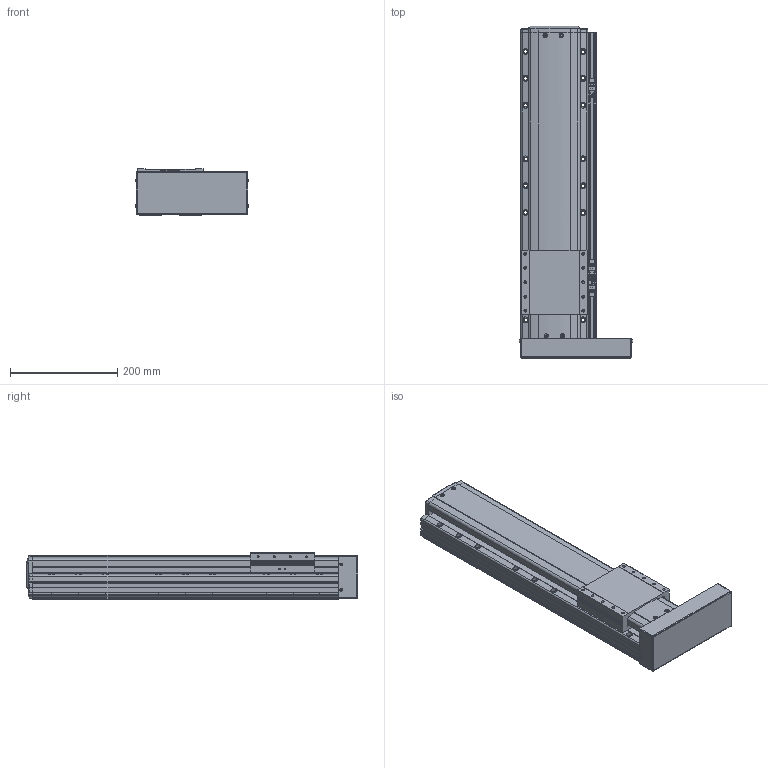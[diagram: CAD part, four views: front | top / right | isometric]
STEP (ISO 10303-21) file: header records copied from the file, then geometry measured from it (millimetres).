
FILE_DESCRIPTION(('STEP AP214'),'1');
FILE_NAME('Z:/Web/3D/PSA125/STP/PSA125-350 (3D)/PSA125ㅁㅁ-350PR+3SR.stp','2014-06-22T23:59:50',(' '),(' '),'Spatial InterOp 3D',' ',' ');
FILE_SCHEMA(('automotive_design'));
Length unit declared in the file: millimetre
Products named in the file (41): 스크루 : Round - M4.0 x 10.0; RRCV-PA120; SLIDE; BASE; FRCV-PA120-1(기준 뿔 제거); RR1500; 스크루 : Round - M4.0 x 6.0; 너트 : Square - M10.0 x 220.7419; BTCV - 60A; 스크루 : Round - M3.0 x 6.0; EE-SX674; SBK-SX674-352; M3.0 x 6.0; SRL-16x17-380L; SGD-PA95; 스크루 : Round - M3.0 x 8.0
Bounding box: 212.13 x 618.6 x 86 mm (x, y, z)
Volume: 5610857.9 mm3; surface area: 567581.2 mm2
Topology: 41 solids, 41 shells, 2439 faces, 6493 edges, 4166 vertices
Faces by surface type: plane 1407, cylinder 676, cone 236, sphere 64, bspline 31, torus 25
Entity records: 97432 total; most frequent: CARTESIAN_POINT 15823, DIRECTION 12973, ORIENTED_EDGE 12726, EDGE_CURVE 6363, AXIS2_PLACEMENT_3D 4329, LINE 4315, VECTOR 4315, VERTEX_POINT 4166
